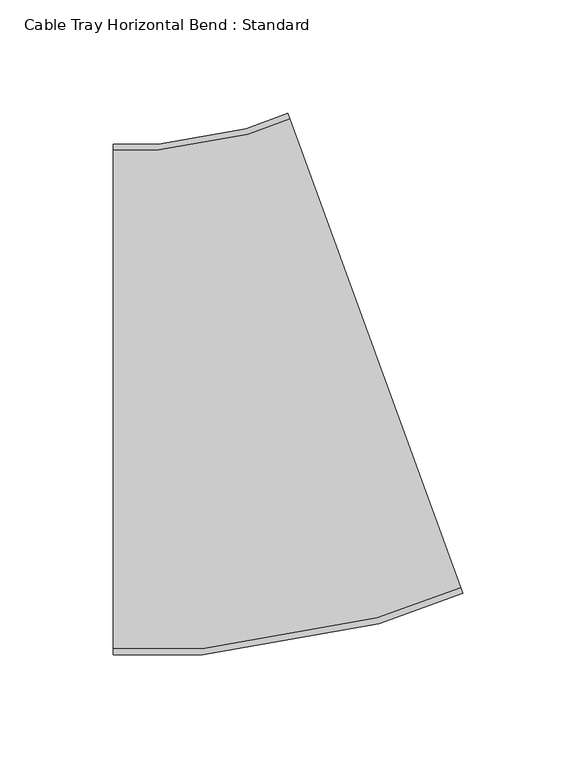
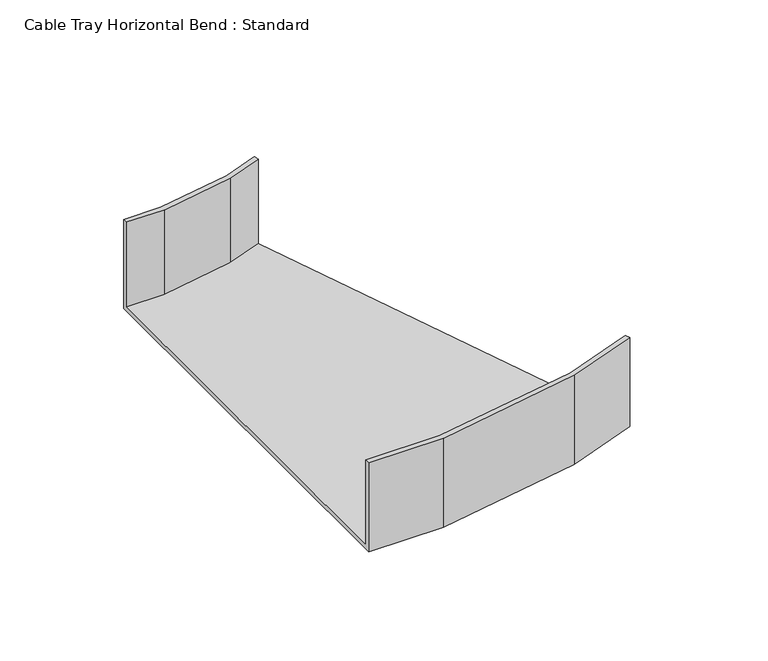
"""IFC4 building model written with IfcOpenShell, lengths in millimetres: cable carrier fitting geometry, Cable Tray Horizontal Bend : Standard."""

from ifc_helpers import new_model, si_unit, origin, place, context, project, spatial, faceted_brep, source, transform, mapped, element, save


def cable_tray_horizontal_bend_standard_0ef8079e(model_context):
    return source(origin(), model_context, "Body", "Brep", [
        faceted_brep([(-59.510356, -112.5, -25.0), (-59.510356, -112.5, 25.0), (-59.510356, -109.96, 25.0), (-59.510356, -109.96, -22.46), (-59.510356, 109.96, -22.46), (-59.510356, 109.96, 25.0), (-59.510356, 112.5, 25.0), (-59.510356, 112.5, -25.0), (94.3987085, -85.3616794, -25.0), (17.4441763, 126.0691603, -25.0), (17.4441763, 126.0691603, 25.0), (18.3129074, 123.6823411, 25.0), (18.3129074, 123.6823411, -22.46), (93.5299773, -82.9748601, -22.46), (93.5299773, -82.9748601, 25.0), (94.3987085, -85.3616794, 25.0), (-20.1404574, -112.5, -25.0), (-20.1404574, -112.5, 25.0), (57.4031053, -98.8269777, 25.0), (56.7431938, -96.3641543, 25.0), (-20.3626786, -109.96, 25.0), (-20.3626786, -109.96, -22.46), (56.7431938, -96.3641543, -22.46), (-0.3937138, 116.8736878, -22.46), (-39.6031855, 109.96, -22.46), (-39.6031855, 109.96, 25.0), (-0.3937138, 116.8736878, 25.0), (-1.0536253, 119.3365111, 25.0), (-39.8254067, 112.5, 25.0), (-39.8254067, 112.5, -25.0), (-1.0536253, 119.3365111, -25.0), (57.4031053, -98.8269777, -25.0)], [[[0, 1, 2, 3, 4, 5, 6, 7]], [[8, 9, 10, 11, 12, 13, 14, 15]], [[1, 0, 16, 17]], [[2, 1, 17, 18, 15, 14, 19, 20]], [[3, 2, 20, 21]], [[4, 3, 21, 22, 13, 12, 23, 24]], [[5, 4, 24, 25]], [[6, 5, 25, 26, 11, 10, 27, 28]], [[7, 6, 28, 29]], [[0, 7, 29, 30, 9, 8, 31, 16]], [[17, 16, 31, 18]], [[21, 20, 19, 22]], [[25, 24, 23, 26]], [[29, 28, 27, 30]], [[18, 31, 8, 15]], [[22, 19, 14, 13]], [[26, 23, 12, 11]], [[30, 27, 10, 9]]]),
    ])


if __name__ == "__main__":
    model = new_model("IFC4")
    model_context = context("Model", 3, world=origin())
    ifc_project = project(units=[si_unit("LENGTHUNIT", "METRE", prefix="MILLI")], contexts=[model_context])
    site = spatial("IfcSite", under=ifc_project)
    building = spatial("IfcBuilding", under=site)
    placement = place(None, origin())
    cable_tray_horizontal_bend_standard_shape = cable_tray_horizontal_bend_standard_0ef8079e(model_context)
    element("IfcCableCarrierFitting", 1, ObjectType="Cable Tray Horizontal Bend : Standard", at=placement, inside=building, context=model_context, shape_type="MappedRepresentation", body=[
        mapped(cable_tray_horizontal_bend_standard_shape, transform((0.0, 0.0, 0.0), x_axis=(1.0, 0.0, 0.0), y_axis=(0.0, 1.0, 0.0), z_axis=(0.0, 0.0, 1.0))),
    ])
    save(model, "model.ifc")
